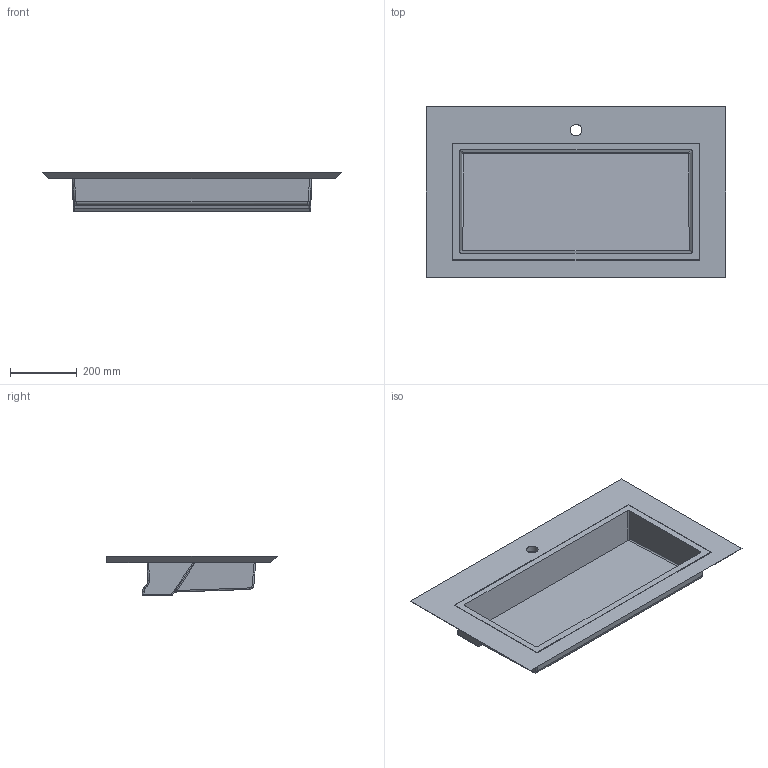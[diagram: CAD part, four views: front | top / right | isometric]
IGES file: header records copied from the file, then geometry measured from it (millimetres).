
Start section: Data from Parasolid IGES Translator 19.0.9, Copyright(c) 2006 Siemens PL M Software. All Rights Reserved.
Global section: file name: noorth-top-H 1,9 D 51,3 W 90_6540.igs; native system: By Siemens PLM Incorporated; preprocessor: XPlus GENERIC/IGES 19.0.9; author: Noname; organization: Noname; date: 20200603.094350; units: metre
Bounding box: 900 x 512 x 118.64 mm (x, y, z)
Volume: 8705189.1 mm3; surface area: 1406234.2 mm2
Topology: 2 solids, 2 shells, 101 faces, 240 edges, 140 vertices
Faces by surface type: plane 39, cylinder 34, bspline 28
Full cylindrical faces by diameter (mm): 34.9 x1
